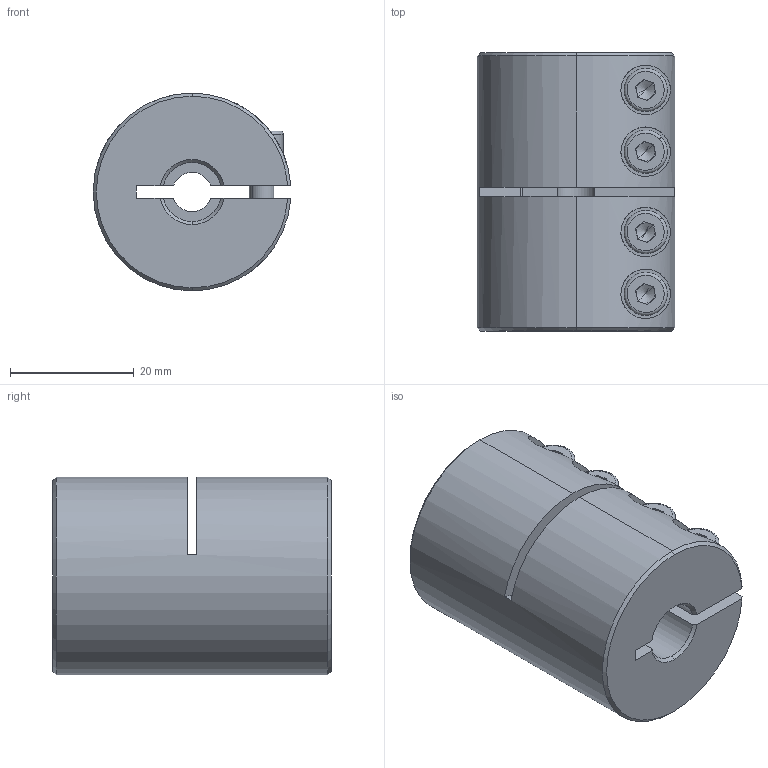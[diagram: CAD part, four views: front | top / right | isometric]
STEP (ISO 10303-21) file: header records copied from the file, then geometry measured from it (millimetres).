
FILE_DESCRIPTION (( 'STEP AP214' ), '1' );
FILE_NAME ('LL-B-D32L45-6.35-9.525½¨Ä£.STEP', '2022-07-21T06:47:11', ( '' ), ( '' ), 'SwSTEP 2.0', 'SolidWorks 2022', '' );
FILE_SCHEMA (( 'AUTOMOTIVE_DESIGN' ));
Length unit declared in the file: millimetre
Products named in the file (1): LL-B-D32L45-6.35-9.525膘耀
Bounding box: 31.97 x 45 x 32 mm (x, y, z)
Volume: 31153.2 mm3; surface area: 10764.2 mm2
Topology: 1 solids, 1 shells, 193 faces, 492 edges, 309 vertices
Faces by surface type: plane 88, cylinder 77, cone 20, torus 8
Entity records: 6357 total; most frequent: CARTESIAN_POINT 1583, DIRECTION 1037, ORIENTED_EDGE 968, EDGE_CURVE 484, AXIS2_PLACEMENT_3D 403, VERTEX_POINT 309, VECTOR 231, LINE 231
